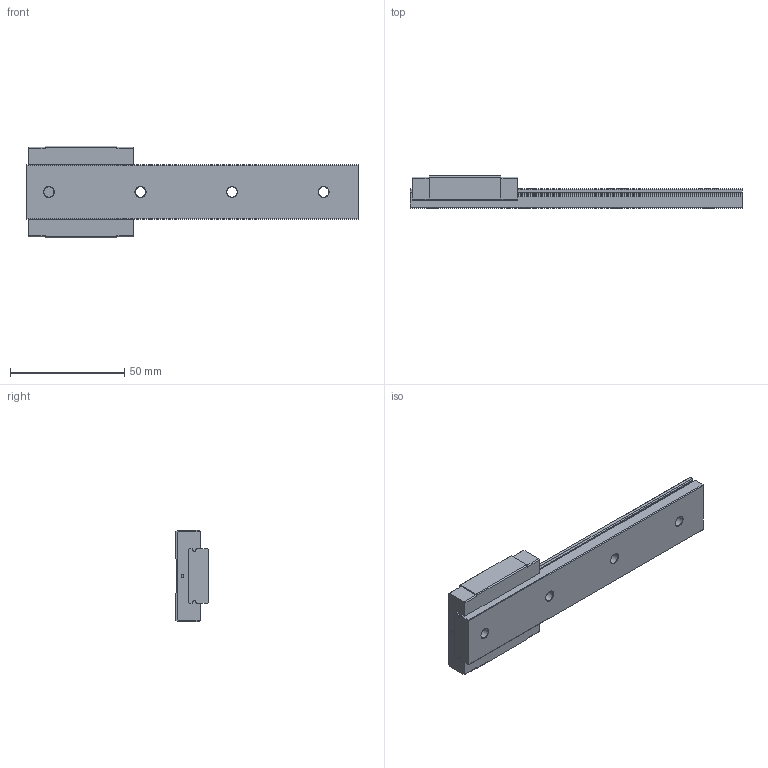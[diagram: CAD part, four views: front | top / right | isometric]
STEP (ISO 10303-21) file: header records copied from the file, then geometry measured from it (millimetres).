
FILE_DESCRIPTION( ( 'STEP AP214' ), '1' );
FILE_NAME( 'C:/Users/Futia/Documents/MLW12C.stp', '2021-11-04T07:05:02', ( 'License CC BY-ND 4.0' ), ( 'CADENAS' ), ' ', 'PARTsolutions', ' ' );
FILE_SCHEMA( ( 'AUTOMOTIVE_DESIGN { 1 0 10303 214 1 1 1 1 }' ) );
Length unit declared in the file: millimetre
Products named in the file (3): SWCC-H14-1-L145-E10; _SWCC-H14-1-L145-E10_SWCC_GUIDERAIL; _SWCC-H14-1-L145-E10_SWCC_BLOCK
Assembly tree (2 placements, depth 2):
  SWCC-H14-1-L145-E10
    _SWCC-H14-1-L145-E10_SWCC_GUIDERAIL
    _SWCC-H14-1-L145-E10_SWCC_BLOCK
Bounding box: 145 x 14 x 40 mm (x, y, z)
Volume: 41190.8 mm3; surface area: 16902.8 mm2
Topology: 2 solids, 2 shells, 116 faces, 294 edges, 192 vertices
Faces by surface type: plane 70, cylinder 34, cone 12
Full cylindrical faces by diameter (mm): 1.2 x2, 2.459 x4, 4.51 x4, 8.01 x4
Entity records: 4350 total; most frequent: DIRECTION 586, CARTESIAN_POINT 579, ORIENTED_EDGE 536, EDGE_CURVE 268, AXIS2_PLACEMENT_3D 199, VERTEX_POINT 192, LINE 188, VECTOR 188
